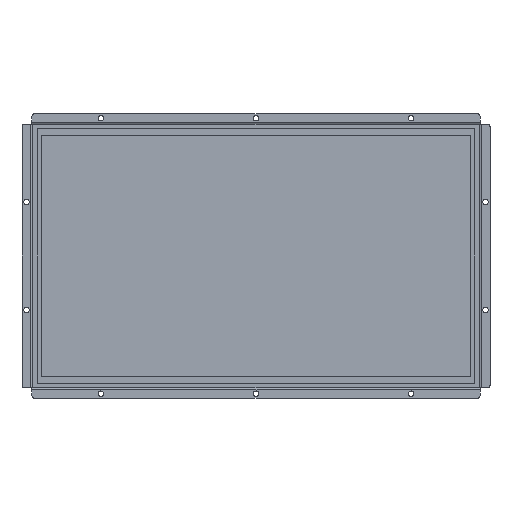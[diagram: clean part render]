
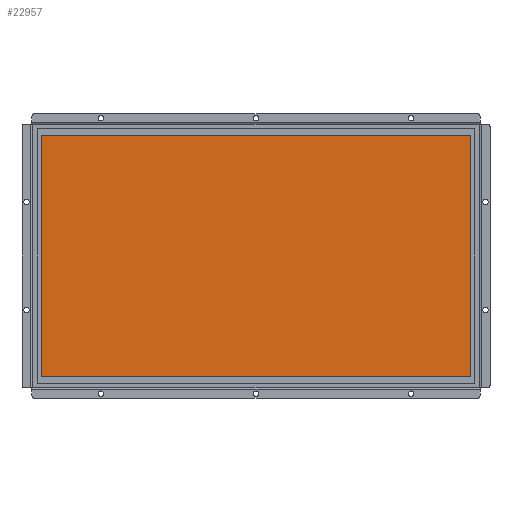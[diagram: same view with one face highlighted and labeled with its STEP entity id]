
A CAD part, front view. The second image highlights one B-rep face of the part: STEP entity #22957.
In plain terms, the highlighted planar face has unit normal (0, -1, 0).
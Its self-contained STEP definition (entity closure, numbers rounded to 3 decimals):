
#1440=CIRCLE('',#24417,2.);
#1441=CIRCLE('',#24418,2.);
#1442=CIRCLE('',#24419,2.);
#1443=CIRCLE('',#24420,2.);
#2629=FACE_OUTER_BOUND('',#3986,.T.);
#3986=EDGE_LOOP('',(#18035,#18036,#18037,#18038,#18039,#18040,#18041,#18042));
#6031=LINE('',#36756,#8077);
#6032=LINE('',#36760,#8078);
#6033=LINE('',#36764,#8079);
#6034=LINE('',#36767,#8080);
#8077=VECTOR('',#28768,10.);
#8078=VECTOR('',#28771,10.);
#8079=VECTOR('',#28774,10.);
#8080=VECTOR('',#28777,10.);
#9911=VERTEX_POINT('',#36752);
#9912=VERTEX_POINT('',#36753);
#9913=VERTEX_POINT('',#36755);
#9914=VERTEX_POINT('',#36757);
#9915=VERTEX_POINT('',#36759);
#9916=VERTEX_POINT('',#36761);
#9917=VERTEX_POINT('',#36763);
#9918=VERTEX_POINT('',#36765);
#12722=EDGE_CURVE('',#9911,#9912,#1440,.T.);
#12723=EDGE_CURVE('',#9913,#9911,#6031,.T.);
#12724=EDGE_CURVE('',#9914,#9913,#1441,.T.);
#12725=EDGE_CURVE('',#9915,#9914,#6032,.T.);
#12726=EDGE_CURVE('',#9916,#9915,#1442,.T.);
#12727=EDGE_CURVE('',#9917,#9916,#6033,.T.);
#12728=EDGE_CURVE('',#9918,#9917,#1443,.T.);
#12729=EDGE_CURVE('',#9912,#9918,#6034,.T.);
#18035=ORIENTED_EDGE('',*,*,#12722,.T.);
#18036=ORIENTED_EDGE('',*,*,#12729,.T.);
#18037=ORIENTED_EDGE('',*,*,#12728,.T.);
#18038=ORIENTED_EDGE('',*,*,#12727,.T.);
#18039=ORIENTED_EDGE('',*,*,#12726,.T.);
#18040=ORIENTED_EDGE('',*,*,#12725,.T.);
#18041=ORIENTED_EDGE('',*,*,#12724,.T.);
#18042=ORIENTED_EDGE('',*,*,#12723,.T.);
#20629=PLANE('',#24439);
#22957=ADVANCED_FACE('',(#2629),#20629,.T.);
#24417=AXIS2_PLACEMENT_3D('',#36754,#28766,#28767);
#24418=AXIS2_PLACEMENT_3D('',#36758,#28769,#28770);
#24419=AXIS2_PLACEMENT_3D('',#36762,#28772,#28773);
#24420=AXIS2_PLACEMENT_3D('',#36766,#28775,#28776);
#24439=AXIS2_PLACEMENT_3D('',#36818,#28834,#28835);
#28766=DIRECTION('center_axis',(0.,-1.,0.));
#28767=DIRECTION('ref_axis',(-1.,0.,0.));
#28768=DIRECTION('',(0.,0.,1.));
#28769=DIRECTION('center_axis',(0.,-1.,0.));
#28770=DIRECTION('ref_axis',(0.,0.,
1.));
#28771=DIRECTION('',(1.,0.,0.));
#28772=DIRECTION('center_axis',(0.,-1.,0.));
#28773=DIRECTION('ref_axis',(1.,0.,0.));
#28774=DIRECTION('',(0.,0.,-1.));
#28775=DIRECTION('center_axis',(0.,-1.,0.));
#28776=DIRECTION('ref_axis',(0.,0.,
-1.));
#28777=DIRECTION('',(-1.,0.,0.));
#28834=DIRECTION('center_axis',(0.,-1.,0.));
#28835=DIRECTION('ref_axis',(1.,0.,0.));
#36752=CARTESIAN_POINT('',(238.37,0.,132.105));
#36753=CARTESIAN_POINT('',(236.37,0.,134.105));
#36754=CARTESIAN_POINT('Origin',(236.37,0.,132.105));
#36755=CARTESIAN_POINT('',(238.37,0.,-132.105));
#36756=CARTESIAN_POINT('',(238.37,0.,-66.053));
#36757=CARTESIAN_POINT('',(236.37,0.,-134.105));
#36758=CARTESIAN_POINT('Origin',(236.37,0.,-132.105));
#36759=CARTESIAN_POINT('',(-236.37,0.,-134.105));
#36760=CARTESIAN_POINT('',(-118.185,0.,-134.105));
#36761=CARTESIAN_POINT('',(-238.37,0.,-132.105));
#36762=CARTESIAN_POINT('Origin',(-236.37,0.,-132.105));
#36763=CARTESIAN_POINT('',(-238.37,0.,132.105));
#36764=CARTESIAN_POINT('',(-238.37,0.,66.052));
#36765=CARTESIAN_POINT('',(-236.37,0.,134.105));
#36766=CARTESIAN_POINT('Origin',(-236.37,0.,132.105));
#36767=CARTESIAN_POINT('',(118.185,0.,134.105));
#36818=CARTESIAN_POINT('Origin',(0.,0.,
0.));
